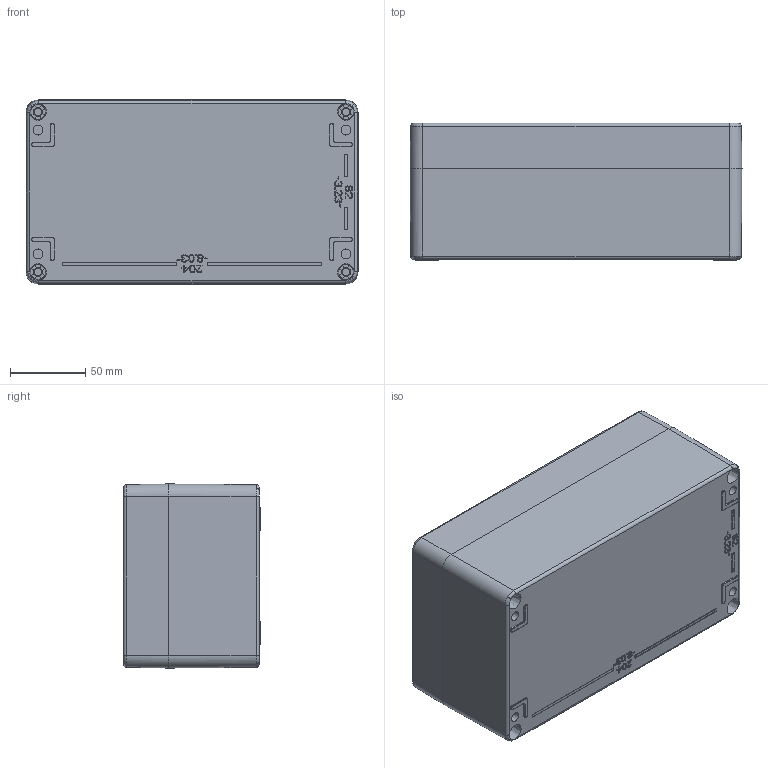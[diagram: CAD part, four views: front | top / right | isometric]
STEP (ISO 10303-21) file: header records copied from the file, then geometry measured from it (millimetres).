
FILE_DESCRIPTION((''),'2;1');
FILE_NAME('1230000050_ASM','2022-08-04T11:26:12',('silke.otte'),(''),'CREO PARAMETRIC BY PTC INC, 2018300','CREO PARAMETRIC BY PTC INC, 2018300','');
FILE_SCHEMA(('AUTOMOTIVE_DESIGN { 1 0 10303 214 1 1 1 1 }'));
Products named in the file (11): 9301035000_AF0; 9261018000; 9601341000_ASM; 9601559000_ASM; 9302038000_AF0; 9261116000; 9611166000_ASM; 9611318000_DICHTUNG; 9611318000_ASM; 9261027000; 1230000050_ASM
Assembly tree (16 placements, depth 4):
  1230000050_ASM
    9601559000_ASM
      9601341000_ASM
        9301035000_AF0
        9261018000  x4
    9611318000_ASM
      9611166000_ASM
        9302038000_AF0
        9261116000
      9611318000_DICHTUNG
    9261027000  x4
Bounding box: 220 x 91 x 122 mm (x, y, z)
Volume: 559418 mm3; surface area: 262218.1 mm2
Topology: 17 solids, 37 shells, 2088 faces, 5522 edges, 3536 vertices
Faces by surface type: plane 1224, cylinder 454, cone 204, bspline 163, torus 43
Entity records: 88217 total; most frequent: CARTESIAN_POINT 28551, ORIENTED_EDGE 8992, DIRECTION 8061, PRESENTATION_STYLE_ASSIGNMENT 4551, STYLED_ITEM 4546, CURVE_STYLE 4527, EDGE_CURVE 4524, VECTOR 2984
